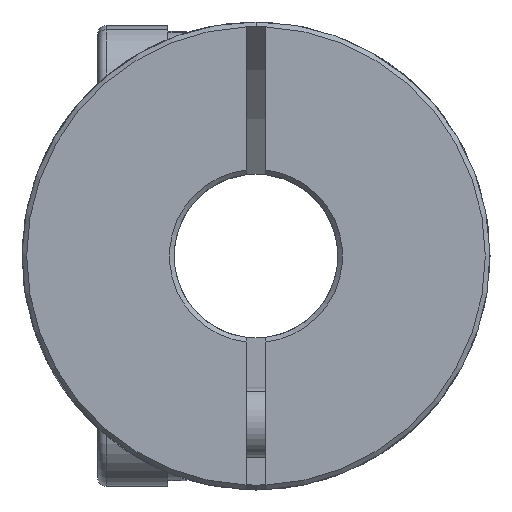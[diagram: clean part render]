
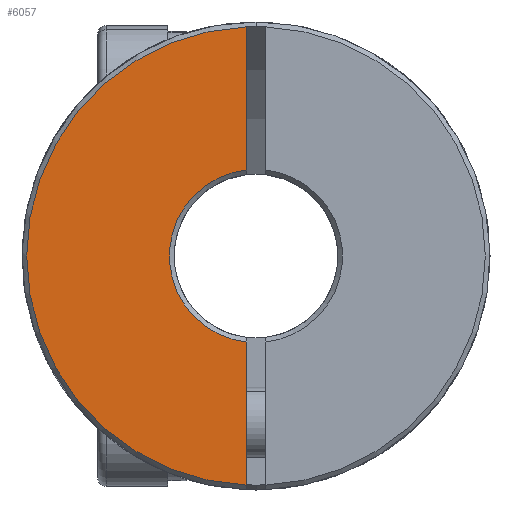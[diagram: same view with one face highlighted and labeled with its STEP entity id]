
A CAD part, front view. The second image highlights one B-rep face of the part: STEP entity #6057.
In plain terms, the highlighted planar face has unit normal (0, -1, 0).
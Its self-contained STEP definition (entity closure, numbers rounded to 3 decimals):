
#1 = EDGE_CURVE ( 'NONE', #479, #3819, #3721, .T. ) ;
#80 = CARTESIAN_POINT ( 'NONE',  ( -0.4, -17.5, -3.678 ) ) ;
#82 = CARTESIAN_POINT ( 'NONE',  ( -0.4, -17.5, 0. ) ) ;
#196 = CARTESIAN_POINT ( 'NONE',  ( 0., -17.5, 0. ) ) ;
#320 = ORIENTED_EDGE ( 'NONE', *, *, #4655, .F. ) ;
#352 = AXIS2_PLACEMENT_3D ( 'NONE', #7313, #7291, #434 ) ;
#434 = DIRECTION ( 'NONE',  ( 0., 0., 1. ) ) ;
#479 = VERTEX_POINT ( 'NONE', #80 ) ;
#648 = ORIENTED_EDGE ( 'NONE', *, *, #1, .T. ) ;
#709 = LINE ( 'NONE', #82, #5028 ) ;
#767 = CARTESIAN_POINT ( 'NONE',  ( -0.4, -17.5, 0. ) ) ;
#1124 = VERTEX_POINT ( 'NONE', #4331 ) ;
#1343 = LINE ( 'NONE', #767, #7257 ) ;
#1383 = DIRECTION ( 'NONE',  ( 0., 0., -1. ) ) ;
#2103 = CARTESIAN_POINT ( 'NONE',  ( -0.4, -17.5, -9.792 ) ) ;
#2422 = DIRECTION ( 'NONE',  ( 0., 0., -1. ) ) ;
#2709 = CARTESIAN_POINT ( 'NONE',  ( 0., -17.5, 0. ) ) ;
#2926 = ORIENTED_EDGE ( 'NONE', *, *, #4882, .F. ) ;
#2967 = EDGE_CURVE ( 'NONE', #1124, #4068, #5390, .T. ) ;
#3182 = DIRECTION ( 'NONE',  ( 0., 0., 1. ) ) ;
#3288 = EDGE_LOOP ( 'NONE', ( #320, #4540, #2926, #648 ) ) ;
#3315 = PLANE ( 'NONE',  #352 ) ;
#3721 = CIRCLE ( 'NONE', #6975, 3.7 ) ;
#3819 = VERTEX_POINT ( 'NONE', #4423 ) ;
#3943 = FACE_OUTER_BOUND ( 'NONE', #3288, .T. ) ;
#4068 = VERTEX_POINT ( 'NONE', #2103 ) ;
#4255 = DIRECTION ( 'NONE',  ( 0., -1., 0. ) ) ;
#4331 = CARTESIAN_POINT ( 'NONE',  ( -0.4, -17.5, 9.792 ) ) ;
#4423 = CARTESIAN_POINT ( 'NONE',  ( -0.4, -17.5, 3.678 ) ) ;
#4540 = ORIENTED_EDGE ( 'NONE', *, *, #2967, .T. ) ;
#4655 = EDGE_CURVE ( 'NONE', #1124, #3819, #709, .T. ) ;
#4882 = EDGE_CURVE ( 'NONE', #479, #4068, #1343, .T. ) ;
#5028 = VECTOR ( 'NONE', #2422, 1000. ) ;
#5390 = CIRCLE ( 'NONE', #6577, 9.8 ) ;
#6057 = ADVANCED_FACE ( 'NONE', ( #3943 ), #3315, .F. ) ;
#6577 = AXIS2_PLACEMENT_3D ( 'NONE', #196, #4255, #3182 ) ;
#6683 = DIRECTION ( 'NONE',  ( 0., 0., 1. ) ) ;
#6975 = AXIS2_PLACEMENT_3D ( 'NONE', #2709, #7361, #6683 ) ;
#7257 = VECTOR ( 'NONE', #1383, 1000. ) ;
#7291 = DIRECTION ( 'NONE',  ( 0., 1., 0. ) ) ;
#7313 = CARTESIAN_POINT ( 'NONE',  ( 0., -17.5, 0. ) ) ;
#7361 = DIRECTION ( 'NONE',  ( 0., 1., 0. ) ) ;
